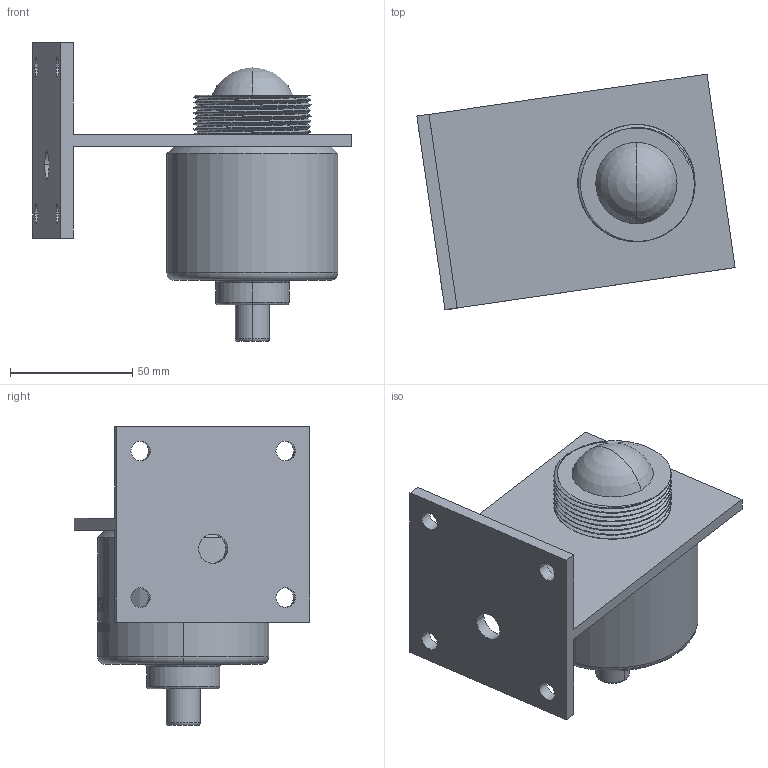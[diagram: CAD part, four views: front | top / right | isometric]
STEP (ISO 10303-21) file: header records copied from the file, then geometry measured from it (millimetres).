
FILE_DESCRIPTION((''),'2;1');
FILE_NAME('ASM0001_ASM','2025-12-24T17:55:40',('28740194'),(''),'CREO PARAMETRIC BY PTC INC, 2024063','CREO PARAMETRIC BY PTC INC, 2024063','');
FILE_SCHEMA(('CONFIG_CONTROL_DESIGN'));
Length unit declared in the file: millimetre
Products named in the file (3): KWL801-A-20MA; 0001; ASM0001_ASM
Assembly tree (2 placements, depth 2):
  ASM0001_ASM
    KWL801-A-20MA
    0001
Bounding box: 130.27 x 96.44 x 122.3 mm (x, y, z)
Volume: 67381.4 mm3; surface area: 57020.8 mm2
Topology: 1 solids, 4 shells, 494 faces, 1381 edges, 919 vertices
Faces by surface type: bspline 406, cylinder 60, plane 16, torus 8, cone 2, sphere 2
Entity records: 24496 total; most frequent: CARTESIAN_POINT 14675, ORIENTED_EDGE 2734, EDGE_CURVE 1379, B_SPLINE_CURVE_WITH_KNOTS 991, VERTEX_POINT 919, DIRECTION 787, EDGE_LOOP 535, FACE_OUTER_BOUND 494
